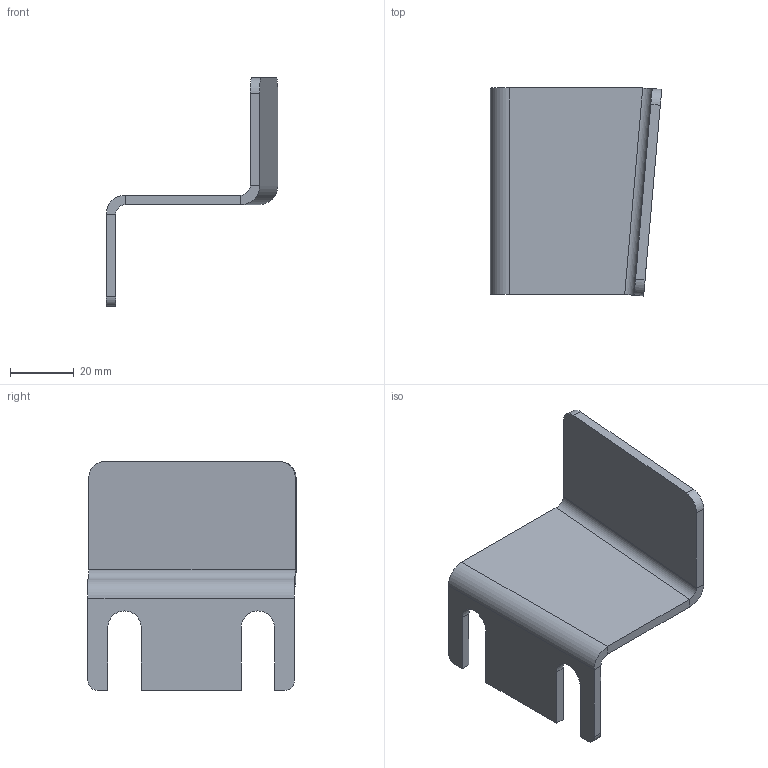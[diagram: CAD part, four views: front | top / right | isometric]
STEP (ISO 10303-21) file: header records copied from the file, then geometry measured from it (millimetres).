
FILE_DESCRIPTION (( 'STEP AP203' ), '1' );
FILE_NAME ('Ø5.01.00.004 Óïîð.STEP', '2025-10-13T13:18:04', ( 'Àíäðåé' ), ( '' ), 'SwSTEP 2.0', 'SolidWorks 2025', '' );
FILE_SCHEMA (( 'CONFIG_CONTROL_DESIGN' ));
Length unit declared in the file: millimetre
Products named in the file (1): Ш5.01.00.004 Упор
Bounding box: 53.98 x 65.52 x 72 mm (x, y, z)
Volume: 21160.1 mm3; surface area: 15447.6 mm2
Topology: 1 solids, 1 shells, 34 faces, 80 edges, 48 vertices
Faces by surface type: plane 24, cylinder 10
Entity records: 1031 total; most frequent: DIRECTION 170, CARTESIAN_POINT 163, ORIENTED_EDGE 160, EDGE_CURVE 80, VECTOR 60, LINE 60, AXIS2_PLACEMENT_3D 55, VERTEX_POINT 48
